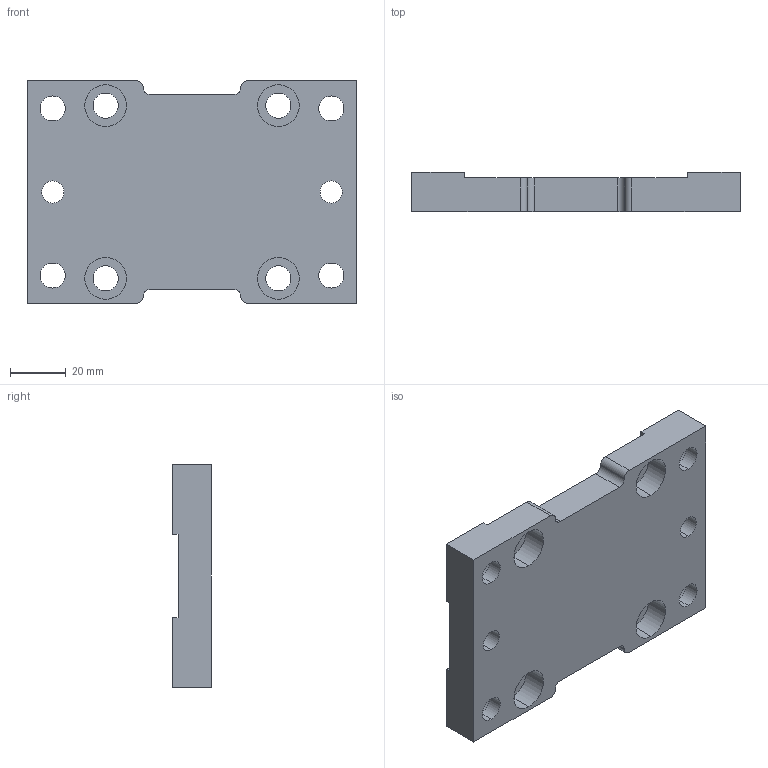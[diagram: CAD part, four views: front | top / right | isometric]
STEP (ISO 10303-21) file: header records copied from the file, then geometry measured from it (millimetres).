
FILE_DESCRIPTION (( 'STEP AP203' ), '1' );
FILE_NAME ('T63J.step', '2017-02-15T12:26:21', ( '' ), ( '' ), 'SwSTEP 2.0', 'SolidWorks 2012', '' );
FILE_SCHEMA (( 'CONFIG_CONTROL_DESIGN' ));
Length unit declared in the file: millimetre
Products named in the file (1): T63J
Bounding box: 118 x 14 x 80 mm (x, y, z)
Volume: 97270.3 mm3; surface area: 27395.1 mm2
Topology: 1 solids, 1 shells, 74 faces, 192 edges, 128 vertices
Faces by surface type: cylinder 44, plane 30
Entity records: 2421 total; most frequent: DIRECTION 430, CARTESIAN_POINT 395, ORIENTED_EDGE 384, EDGE_CURVE 192, AXIS2_PLACEMENT_3D 163, VERTEX_POINT 128, VECTOR 104, LINE 104
